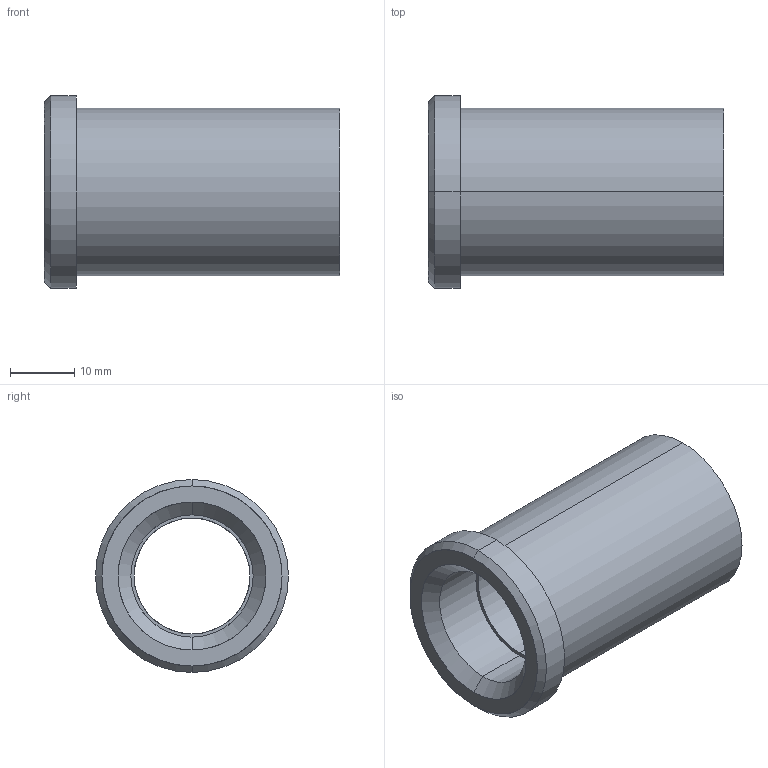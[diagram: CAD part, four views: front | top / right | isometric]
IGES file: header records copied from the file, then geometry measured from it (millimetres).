
Start section: START RECORD GO HERE.
Global section: file name: 353-18X46.igs; native system: DASSAULT SYSTEMES CATIA V5 R20 - www.3ds.com; preprocessor: CATIA Version 5 Release 20 ; author: Utente; organization: NB04-ASUS; date: 20210508.104245; units: millimetre
Bounding box: 46 x 30 x 30 mm (x, y, z)
Surface area: 7201 mm2 (no closed solid volume)
Topology: 0 solids, 0 shells, 18 faces, 116 edges, 116 vertices
Faces by surface type: revolution 14, plane 4
